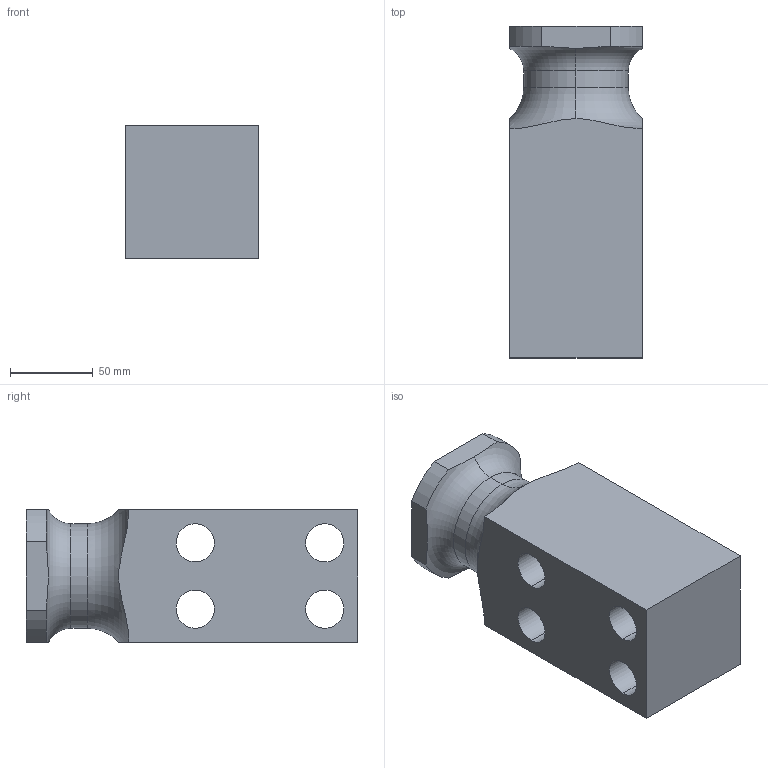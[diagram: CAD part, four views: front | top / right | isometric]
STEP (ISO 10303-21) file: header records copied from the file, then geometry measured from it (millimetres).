
FILE_DESCRIPTION(('CATIA V5 STEP Exchange'),'2;1');
FILE_NAME('C:\Users\Raffaele\Desktop\3D X SITO CF\PERNI -STAFFE SOLLEVAMENTO\395V\GSB_OILLESS_C10104080200\STEP-2.03\395V-04-080-200.stp','2019-07-03T12:43:45+00:00',('none'),('none'),'CATIA Version 5 Release 20 GA (IN-10)','CATIA V5 STEP AP203','none');
FILE_SCHEMA(('CONFIG_CONTROL_DESIGN'));
Length unit declared in the file: millimetre
Products named in the file (1): 395V-04-080-200
Bounding box: 80 x 200 x 80 mm (x, y, z)
Volume: 974961.6 mm3; surface area: 95926.2 mm2
Topology: 1 solids, 1 shells, 44 faces, 150 edges, 112 vertices
Faces by surface type: cylinder 22, plane 18, torus 4
Entity records: 2134 total; most frequent: CARTESIAN_POINT 805, ORIENTED_EDGE 300, DIRECTION 206, EDGE_CURVE 150, AXIS2_PLACEMENT_3D 117, VERTEX_POINT 112, CIRCLE 72, EDGE_LOOP 56
